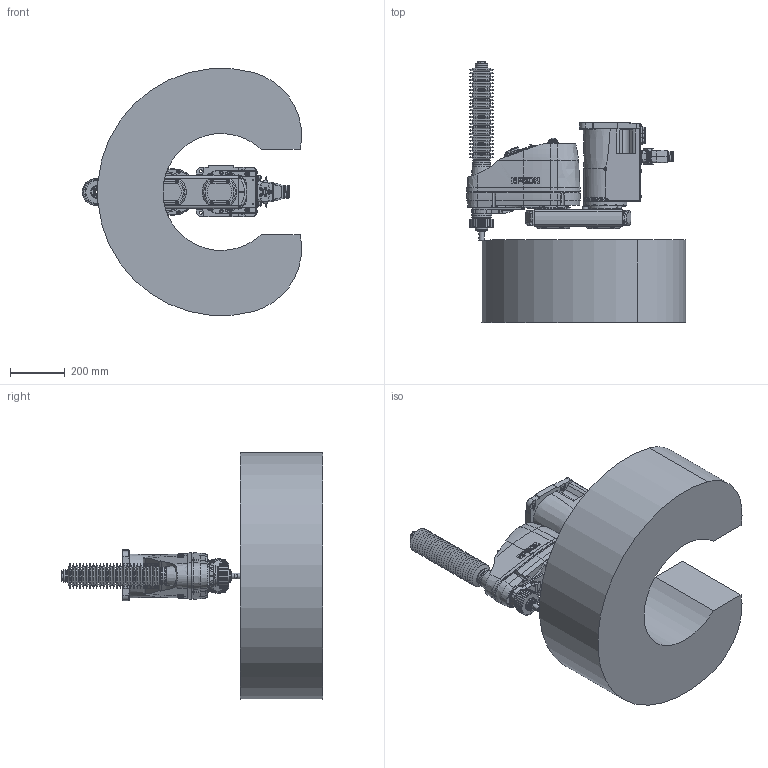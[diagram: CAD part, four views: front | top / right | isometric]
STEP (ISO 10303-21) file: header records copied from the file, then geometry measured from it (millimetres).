
FILE_DESCRIPTION( ( 'STEP AP214' ), '1' );
FILE_NAME( 'C:/Users/9607552/Desktop/GX8-B453PR_straight.stp', '2023-07-07T01:50:41', ( '' ), ( '' ), ' ', 'PARTsolutions', ' ' );
FILE_SCHEMA( ( 'AUTOMOTIVE_DESIGN { 1 0 10303 214 1 1 1 1 }' ) );
Length unit declared in the file: millimetre
Products named in the file (11): GX8-B453PRS-W; _B452PR_BASE; _B452CR; _B452CR_1; _B452CR_2; _B452P_J2; _B453CZA; _2-B-long; _2-B-short; _Straight-B; _GX8-11-1-B_WS
Assembly tree (12 placements, depth 2):
  GX8-B453PRS-W
    _B452PR_BASE
    _B452CR
    _B452CR_1  x2
    _B452CR_2  x2
    _B452P_J2
    _B453CZA
    _2-B-long
    _2-B-short
    _Straight-B
    _GX8-11-1-B_WS
Bounding box: 797.24 x 950.5 x 896.58 mm (x, y, z)
Volume: 137655124.1 mm3; surface area: 3335740.8 mm2
Topology: 12 solids, 16 shells, 3473 faces, 8286 edges, 5342 vertices
Faces by surface type: plane 1659, cylinder 1145, cone 470, torus 157, bspline 37, sphere 5
Full cylindrical faces by diameter (mm): 1 x24, 1.18 x55, 1.2 x24, 2.261 x4, 2.459 x4, 3 x32, 3.242 x18, 3.3 x4, 3.9 x4, 4.2 x8, 4.5 x12, 4.8 x4, 5.34 x4, 5.5 x25, 6 x5, 6.2 x4, 6.4 x1, 6.647 x4, 6.8 x2, 7 x48, 7.4 x1, 8 x5, 8.5 x6, 9 x24, 10 x18, 11 x4, 11.2 x7, 12 x5, 12.2 x1, 12.25 x1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
Entity records: 122384 total; most frequent: CARTESIAN_POINT 22538, DIRECTION 15329, ORIENTED_EDGE 13606, EDGE_CURVE 6803, AXIS2_PLACEMENT_3D 6042, VERTEX_POINT 4956, EDGE_LOOP 4781, FACE_OUTER_BOUND 3943
